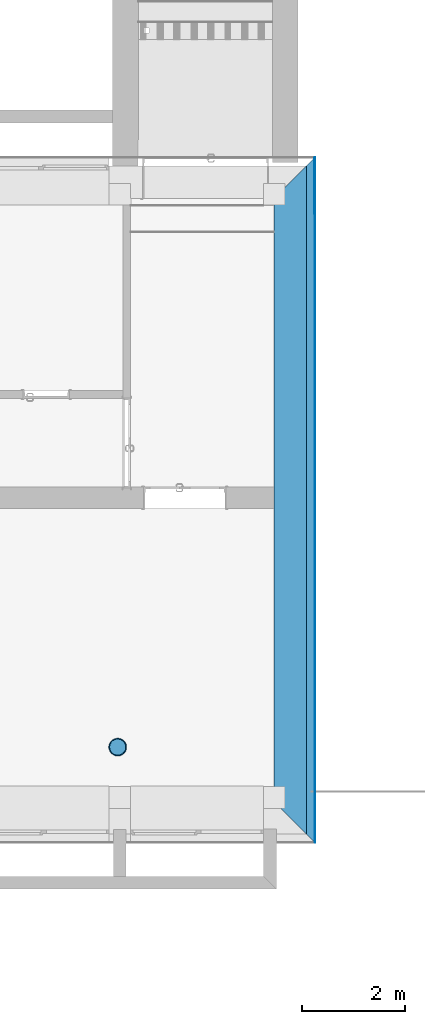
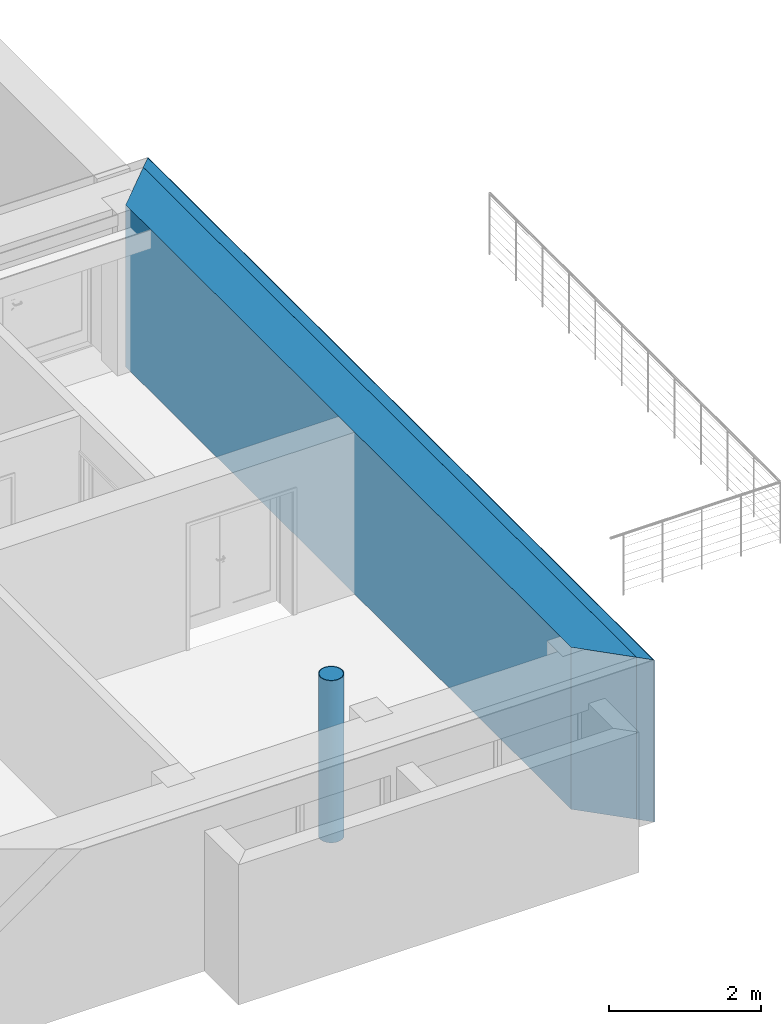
# One storey, part 30 of 127: 5 building element parts, 2 elements without a shape of their own.
"""IFC2X3 building model written with IfcOpenShell, lengths in millimetres."""

from ifc_helpers import new_model, entity, si_unit, converted_unit, derived_unit, money_unit, direction, frame, origin_with_axes, origin_2d_with_axis, place, context, subcontext, project, spatial, polyline, circle, hollow_circle, outline, extrude, material, type_object, element, aggregate, save


model = new_model("IFC2X3")

# Units and contexts
model_context = context("Model", 3, precision=1e-05, world=origin_with_axes(), true_north=direction((0.0, 1.0)))
body_context = subcontext(model_context, "Body", "Model", "MODEL_VIEW")
ifc_project = project(units=[si_unit("LENGTHUNIT", "METRE", prefix="MILLI"), si_unit("AREAUNIT", "SQUARE_METRE"), si_unit("VOLUMEUNIT", "CUBIC_METRE"), converted_unit("PLANEANGLEUNIT", "DEGREE", entity("IfcPlaneAngleMeasure", 0.0174532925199), si_unit("PLANEANGLEUNIT", "RADIAN"), dimensions=[0, 0, 0, 0, 0, 0, 0]), si_unit("SOLIDANGLEUNIT", "STERADIAN"), money_unit("EUR"), converted_unit("TIMEUNIT", "Year", entity("IfcTimeMeasure", 31556926.0), si_unit("TIMEUNIT", "SECOND"), dimensions=[0, 0, 1, 0, 0, 0, 0]), si_unit("MASSUNIT", "GRAM", prefix="KILO"), si_unit("THERMODYNAMICTEMPERATUREUNIT", "DEGREE_CELSIUS"), si_unit("LUMINOUSINTENSITYUNIT", "LUMEN"), si_unit("ENERGYUNIT", "JOULE", prefix="MEGA"), derived_unit("THERMALCONDUCTANCEUNIT", [(si_unit("POWERUNIT", "WATT"), 1), (si_unit("LENGTHUNIT", "METRE"), -1), (si_unit("THERMODYNAMICTEMPERATUREUNIT", "KELVIN"), -1)]), derived_unit("SPECIFICHEATCAPACITYUNIT", [(si_unit("ENERGYUNIT", "JOULE"), 1), (si_unit("MASSUNIT", "GRAM", prefix="KILO"), -1), (si_unit("THERMODYNAMICTEMPERATUREUNIT", "KELVIN"), -1)]), derived_unit("MASSDENSITYUNIT", [(si_unit("MASSUNIT", "GRAM", prefix="KILO"), 1), (si_unit("VOLUMEUNIT", "CUBIC_METRE"), -1)])], contexts=[model_context])

# Site, building, storey
site_placement = place(None, origin_with_axes())
site = spatial("IfcSite", under=ifc_project, at=site_placement, Name="Site", CompositionType="ELEMENT")
building_placement = place(site_placement, origin_with_axes())
building = spatial("IfcBuilding", under=site, at=building_placement, Name="Building", CompositionType="ELEMENT")
storey_placement = place(building_placement, origin_with_axes())
storey = spatial("IfcBuildingStorey", under=building, at=storey_placement, Name="1 KORRUS", CompositionType="ELEMENT", Elevation=0.0)

# Wall, building element parts
wall_type = type_object("IfcWallType", Name="VS-3", PredefinedType="NOTDEFINED")
wall_placement = place(storey_placement, frame((100567.620891, 47231.6112229, 0.0), z_axis=(0.0, 0.0, 1.0), x_axis=(8.52438617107e-05, -0.999999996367, 0.0)))
wall = element("IfcWall", 1, at=wall_placement, inside=storey, type_object=wall_type, Name="VS3 krohv")
ifc_material_1 = material(Name="Kivi - Ol.Olev Konstruktsioon")
building_element_part_1_placement = place(wall_placement, origin_with_axes())
building_element_part_1 = element("IfcBuildingElementPart", 2, at=building_element_part_1_placement, material=ifc_material_1, Name="Kivi - Ol.Olev Konstruktsioon", context=body_context, shape_type="SweptSolid", body=[
    extrude(outline(polyline([(629.789617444, -630.0), (12339.0674463, -630.0), (12969.0782511, 1.13686837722e-10), (0.0, 0.0), (629.789617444, -630.0)])), origin_with_axes(), (0.0, 0.0, 1.0), 2600.0),
])
ifc_material_2 = material(Name="Soojustus - Plastik Kõva")
building_element_part_2_placement = place(wall_placement, origin_with_axes())
building_element_part_2 = element("IfcBuildingElementPart", 3, at=building_element_part_2_placement, material=ifc_material_2, Name="Soojustus - Plastik Kõva", context=body_context, shape_type="SweptSolid", body=[
    extrude(outline(polyline([(0.0, 0.0), (12969.0782511, 1.13686837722e-10), (13129.0809952, 160.0), (-159.946569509, 160.0), (0.0, 0.0)])), origin_with_axes(), (0.0, 0.0, 1.0), 2600.0),
])
ifc_material_3 = material(Name="Krohv - Õhekrohv")
building_element_part_3_placement = place(wall_placement, origin_with_axes())
building_element_part_3 = element("IfcBuildingElementPart", 4, at=building_element_part_3_placement, material=ifc_material_3, Name="Krohv - Õhekrohv", context=body_context, shape_type="SweptSolid", body=[
    extrude(outline(polyline([(-159.946569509, 160.0), (13129.0809952, 160.0), (13139.0811667, 170.0), (-169.943230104, 170.0), (-159.946569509, 160.0)])), origin_with_axes(), (0.0, 0.0, 1.0), 2600.0),
])
aggregate(wall, [building_element_part_1, building_element_part_2, building_element_part_3])

# Column, building element parts
column_type = type_object("IfcColumnType", Name="CRE - 003", PredefinedType="NOTDEFINED")
column_placement = place(storey_placement, frame((96907.3191108, 35950.3008183, 0.0), z_axis=(0.0, 0.0, 1.0), x_axis=(1.0, 0.0, 0.0)))
column = element("IfcColumn", 5, at=column_placement, inside=storey, type_object=column_type, Name="Air Space", ObjectType="Air Space D320")
ifc_material_4 = material(Name="TERAS, valge copy")
building_element_part_4_placement = place(column_placement, origin_with_axes())
building_element_part_4 = element("IfcBuildingElementPart", 6, at=building_element_part_4_placement, material=ifc_material_4, Name="TERAS, valge copy", context=body_context, shape_type="SweptSolid", body=[
    extrude(hollow_circle(Radius=170.0, WallThickness=10.0, at=origin_2d_with_axis()), origin_with_axes(), (0.0, 0.0, 1.0), 2600.0),
])
ifc_material_5 = material(Name="Air Space")
building_element_part_5_placement = place(column_placement, origin_with_axes())
building_element_part_5 = element("IfcBuildingElementPart", 7, at=building_element_part_5_placement, material=ifc_material_5, Name="Air Space", context=body_context, shape_type="SweptSolid", body=[
    extrude(circle(Radius=160.0, at=origin_2d_with_axis()), origin_with_axes(), (0.0, 0.0, 1.0), 2600.0),
])
aggregate(column, [building_element_part_4, building_element_part_5])

save(model, "model.ifc")
